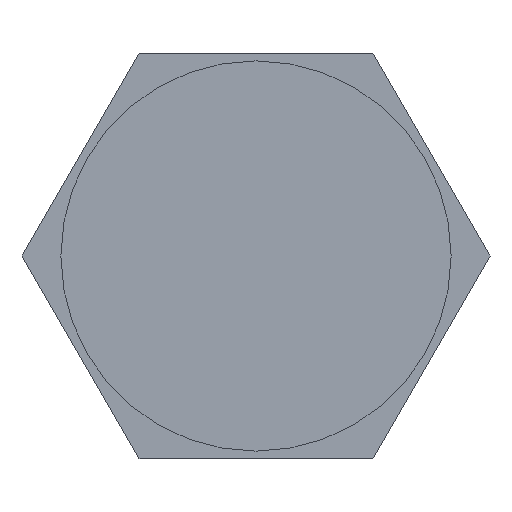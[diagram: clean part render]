
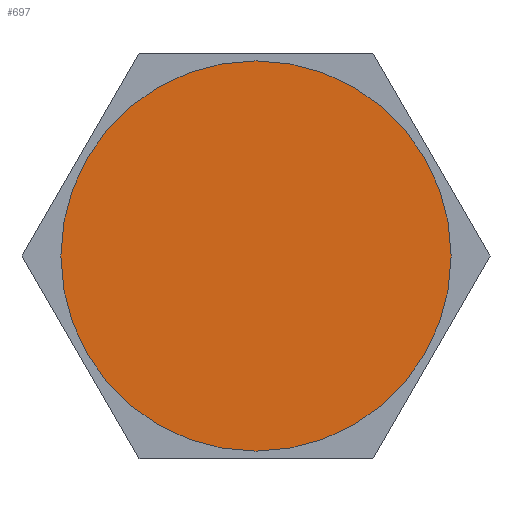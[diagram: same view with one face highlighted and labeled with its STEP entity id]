
A CAD part, front view. The second image highlights one B-rep face of the part: STEP entity #697.
In plain terms, the highlighted planar face has unit normal (0, -1, 0).
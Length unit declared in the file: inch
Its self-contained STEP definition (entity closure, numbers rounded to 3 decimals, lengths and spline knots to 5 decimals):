
#40 = ORIENTED_EDGE ( 'NONE', *, *, #836, .F. ) ;
#87 = CIRCLE ( 'NONE', #870, 0.68 ) ;
#128 = CIRCLE ( 'NONE', #867, 0.68 ) ;
#180 = ORIENTED_EDGE ( 'NONE', *, *, #793, .F. ) ;
#224 = EDGE_LOOP ( 'NONE', ( #180, #40 ) ) ;
#246 = FACE_OUTER_BOUND ( 'NONE', #224, .T. ) ;
#396 = PLANE ( 'NONE',  #875 ) ;
#397 = DIRECTION ( 'NONE',  ( 0., 1., 0. ) ) ;
#427 = CARTESIAN_POINT ( 'NONE',  ( 0., 0., 0. ) ) ;
#429 = DIRECTION ( 'NONE',  ( 0., 0., 1. ) ) ;
#430 = CARTESIAN_POINT ( 'NONE',  ( 0., 0., 0. ) ) ;
#439 = DIRECTION ( 'NONE',  ( 0., 1., 0. ) ) ;
#441 = DIRECTION ( 'NONE',  ( 0., 0., 1. ) ) ;
#486 = VERTEX_POINT ( 'NONE', #557 ) ;
#489 = CARTESIAN_POINT ( 'NONE',  ( 0., 0., 0.68 ) ) ;
#512 = VERTEX_POINT ( 'NONE', #489 ) ;
#557 = CARTESIAN_POINT ( 'NONE',  ( 0., 0., -0.68 ) ) ;
#581 = DIRECTION ( 'NONE',  ( 0., 0., 1. ) ) ;
#583 = DIRECTION ( 'NONE',  ( 0., 1., 0. ) ) ;
#592 = CARTESIAN_POINT ( 'NONE',  ( 0., 0., 0. ) ) ;
#697 = ADVANCED_FACE ( 'NONE', ( #246 ), #396, .F. ) ;
#793 = EDGE_CURVE ( 'NONE', #486, #512, #128, .T. ) ;
#836 = EDGE_CURVE ( 'NONE', #512, #486, #87, .T. ) ;
#867 = AXIS2_PLACEMENT_3D ( 'NONE', #430, #439, #441 ) ;
#870 = AXIS2_PLACEMENT_3D ( 'NONE', #592, #583, #581 ) ;
#875 = AXIS2_PLACEMENT_3D ( 'NONE', #427, #397, #429 ) ;
